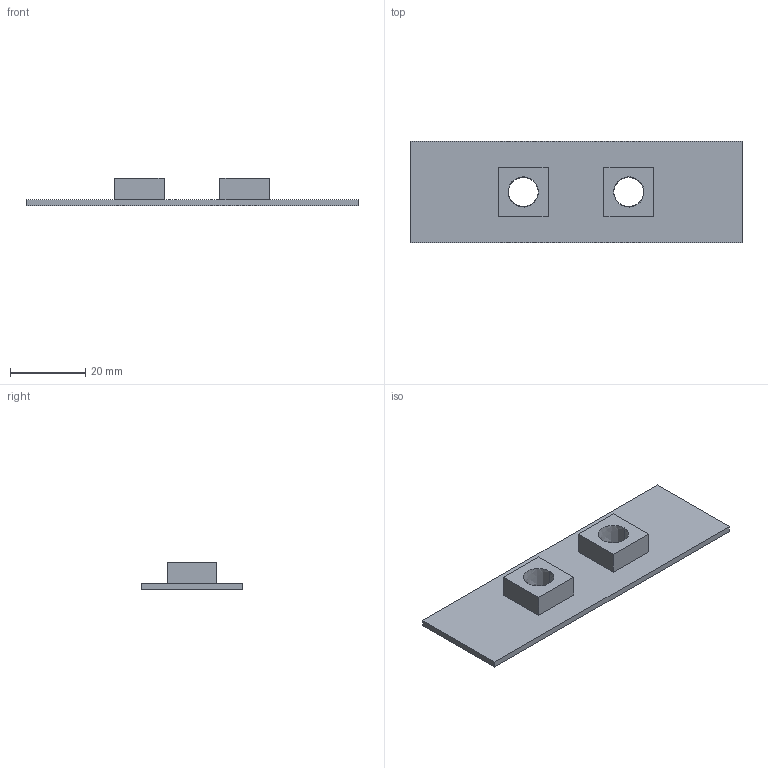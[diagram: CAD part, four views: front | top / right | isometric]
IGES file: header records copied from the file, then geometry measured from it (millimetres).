
Start section:  PTC IGES file: j3-30-37k-pe.igs
Global section: file name: j3-30-37k-pe.igs; native system: Pro/ENGINEER by Parametric Technology Corporation; preprocessor: 2006420; author: JE18792; organization: Unknown; date: 20101129.152804; units: millimetre
Bounding box: 88 x 27 x 7.4 mm (x, y, z)
Volume: 5078.9 mm3; surface area: 5903.4 mm2
Topology: 1 solids, 1 shells, 20 faces, 48 edges, 32 vertices
Faces by surface type: bspline 20
